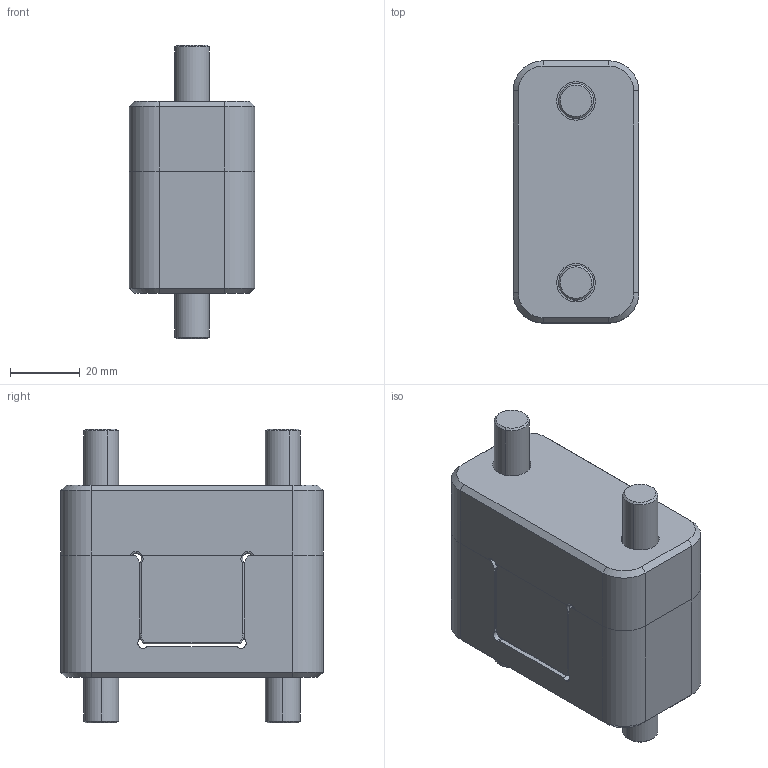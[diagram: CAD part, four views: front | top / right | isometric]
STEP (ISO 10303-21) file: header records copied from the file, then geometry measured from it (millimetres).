
FILE_DESCRIPTION (( 'STEP AP203' ), '1' );
FILE_NAME ('TLM36X75-R.step', '2018-03-16T16:55:51', ( '' ), ( '' ), 'SwSTEP 2.0', 'SolidWorks 2015', '' );
FILE_SCHEMA (( 'CONFIG_CONTROL_DESIGN' ));
Length unit declared in the file: millimetre
Products named in the file (5): M10_X_35; TLM36X75-R MALE; TLM36X75-R; M10_X_25; TLM36X75-R FEMALE
Assembly tree (6 placements, depth 2):
  TLM36X75-R
    TLM36X75-R MALE
    TLM36X75-R FEMALE
    M10_X_25  x2
    M10_X_35  x2
Bounding box: 36 x 75 x 84 mm (x, y, z)
Volume: 140384.9 mm3; surface area: 37284.1 mm2
Topology: 6 solids, 6 shells, 412 faces, 908 edges, 590 vertices
Faces by surface type: cylinder 203, plane 153, cone 26, torus 24, bspline 6
Entity records: 11357 total; most frequent: CARTESIAN_POINT 2107, DIRECTION 1978, ORIENTED_EDGE 1664, EDGE_CURVE 832, AXIS2_PLACEMENT_3D 819, VERTEX_POINT 542, EDGE_LOOP 462, CIRCLE 440
